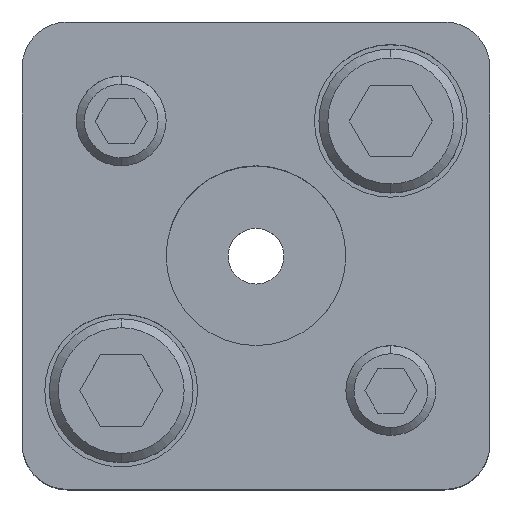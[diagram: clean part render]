
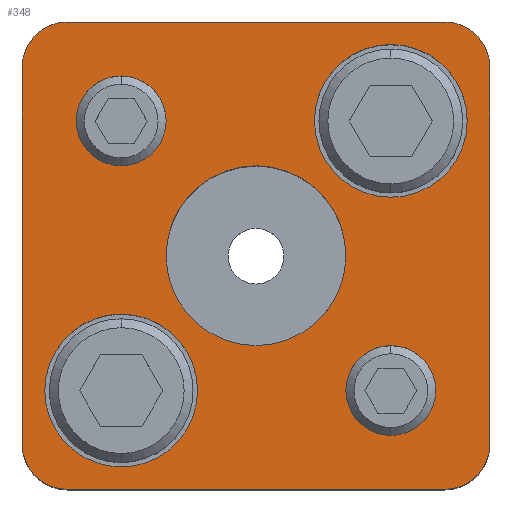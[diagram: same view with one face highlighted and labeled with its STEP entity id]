
A CAD part, top view. The second image highlights one B-rep face of the part: STEP entity #348.
In plain terms, the highlighted planar face has unit normal (0, 0, 1).
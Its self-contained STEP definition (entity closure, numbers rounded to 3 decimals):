
#173=PLANE('',#2995);
#248=FACE_BOUND('',#745,.T.);
#249=FACE_BOUND('',#746,.T.);
#250=FACE_BOUND('',#747,.T.);
#251=FACE_BOUND('',#748,.T.);
#252=FACE_BOUND('',#749,.T.);
#253=FACE_BOUND('',#750,.T.);
#348=ADVANCED_FACE('',(#248,#249,#250,#251,#252,#253),#173,.T.);
#745=EDGE_LOOP('',(#1597,#1598,#1599,#1600,#1601,#1602,#1603,#1604));
#746=EDGE_LOOP('',(#1605,#1606));
#747=EDGE_LOOP('',(#1607,#1608));
#748=EDGE_LOOP('',(#1609,#1610));
#749=EDGE_LOOP('',(#1611,#1612));
#750=EDGE_LOOP('',(#1613,#1614));
#934=LINE('',#4430,#1142);
#935=LINE('',#4434,#1143);
#936=LINE('',#4438,#1144);
#937=LINE('',#4442,#1145);
#1142=VECTOR('',#3559,1.);
#1143=VECTOR('',#3562,1.);
#1144=VECTOR('',#3565,1.);
#1145=VECTOR('',#3568,1.);
#1597=ORIENTED_EDGE('',*,*,#2454,.T.);
#1598=ORIENTED_EDGE('',*,*,#2455,.T.);
#1599=ORIENTED_EDGE('',*,*,#2456,.T.);
#1600=ORIENTED_EDGE('',*,*,#2457,.T.);
#1601=ORIENTED_EDGE('',*,*,#2458,.T.);
#1602=ORIENTED_EDGE('',*,*,#2459,.T.);
#1603=ORIENTED_EDGE('',*,*,#2460,.T.);
#1604=ORIENTED_EDGE('',*,*,#2461,.T.);
#1605=ORIENTED_EDGE('',*,*,#2462,.F.);
#1606=ORIENTED_EDGE('',*,*,#2463,.F.);
#1607=ORIENTED_EDGE('',*,*,#2464,.F.);
#1608=ORIENTED_EDGE('',*,*,#2465,.F.);
#1609=ORIENTED_EDGE('',*,*,#2440,.F.);
#1610=ORIENTED_EDGE('',*,*,#2436,.F.);
#1611=ORIENTED_EDGE('',*,*,#2434,.F.);
#1612=ORIENTED_EDGE('',*,*,#2430,.F.);
#1613=ORIENTED_EDGE('',*,*,#2466,.T.);
#1614=ORIENTED_EDGE('',*,*,#2467,.T.);
#2135=VERTEX_POINT('',#4378);
#2136=VERTEX_POINT('',#4379);
#2139=VERTEX_POINT('',#4391);
#2140=VERTEX_POINT('',#4392);
#2151=VERTEX_POINT('',#4428);
#2152=VERTEX_POINT('',#4429);
#2153=VERTEX_POINT('',#4431);
#2154=VERTEX_POINT('',#4433);
#2155=VERTEX_POINT('',#4435);
#2156=VERTEX_POINT('',#4437);
#2157=VERTEX_POINT('',#4439);
#2158=VERTEX_POINT('',#4441);
#2159=VERTEX_POINT('',#4444);
#2160=VERTEX_POINT('',#4445);
#2161=VERTEX_POINT('',#4448);
#2162=VERTEX_POINT('',#4449);
#2163=VERTEX_POINT('',#4452);
#2164=VERTEX_POINT('',#4453);
#2430=EDGE_CURVE('',#2135,#2136,#2735,.T.);
#2434=EDGE_CURVE('',#2136,#2135,#2737,.T.);
#2436=EDGE_CURVE('',#2139,#2140,#2739,.T.);
#2440=EDGE_CURVE('',#2140,#2139,#2741,.T.);
#2454=EDGE_CURVE('',#2151,#2152,#2751,.T.);
#2455=EDGE_CURVE('',#2152,#2153,#934,.T.);
#2456=EDGE_CURVE('',#2153,#2154,#2752,.T.);
#2457=EDGE_CURVE('',#2154,#2155,#935,.T.);
#2458=EDGE_CURVE('',#2155,#2156,#2753,.T.);
#2459=EDGE_CURVE('',#2156,#2157,#936,.T.);
#2460=EDGE_CURVE('',#2157,#2158,#2754,.T.);
#2461=EDGE_CURVE('',#2158,#2151,#937,.T.);
#2462=EDGE_CURVE('',#2159,#2160,#2755,.T.);
#2463=EDGE_CURVE('',#2160,#2159,#2756,.T.);
#2464=EDGE_CURVE('',#2161,#2162,#2757,.T.);
#2465=EDGE_CURVE('',#2162,#2161,#2758,.T.);
#2466=EDGE_CURVE('',#2163,#2164,#2759,.T.);
#2467=EDGE_CURVE('',#2164,#2163,#2760,.T.);
#2735=CIRCLE('',#2959,5.);
#2737=CIRCLE('',#2962,5.);
#2739=CIRCLE('',#2966,5.);
#2741=CIRCLE('',#2969,5.);
#2751=CIRCLE('',#2985,5.);
#2752=CIRCLE('',#2986,5.);
#2753=CIRCLE('',#2987,5.);
#2754=CIRCLE('',#2988,5.);
#2755=CIRCLE('',#2989,8.5);
#2756=CIRCLE('',#2990,8.5);
#2757=CIRCLE('',#2991,8.5);
#2758=CIRCLE('',#2992,8.5);
#2759=CIRCLE('',#2993,10.);
#2760=CIRCLE('',#2994,10.);
#2959=AXIS2_PLACEMENT_3D('',#4377,#3497,#3498);
#2962=AXIS2_PLACEMENT_3D('',#4386,#3505,#3506);
#2966=AXIS2_PLACEMENT_3D('',#4390,#3513,#3514);
#2969=AXIS2_PLACEMENT_3D('',#4399,#3521,#3522);
#2985=AXIS2_PLACEMENT_3D('',#4427,#3557,#3558);
#2986=AXIS2_PLACEMENT_3D('',#4432,#3560,#3561);
#2987=AXIS2_PLACEMENT_3D('',#4436,#3563,#3564);
#2988=AXIS2_PLACEMENT_3D('',#4440,#3566,#3567);
#2989=AXIS2_PLACEMENT_3D('',#4443,#3569,#3570);
#2990=AXIS2_PLACEMENT_3D('',#4446,#3571,#3572);
#2991=AXIS2_PLACEMENT_3D('',#4447,#3573,#3574);
#2992=AXIS2_PLACEMENT_3D('',#4450,#3575,#3576);
#2993=AXIS2_PLACEMENT_3D('',#4451,#3577,#3578);
#2994=AXIS2_PLACEMENT_3D('',#4454,#3579,#3580);
#2995=AXIS2_PLACEMENT_3D('',#4455,#3581,#3582);
#3497=DIRECTION('',(0.,0.,1.));
#3498=DIRECTION('',(-1.,0.,0.));
#3505=DIRECTION('',(0.,0.,1.));
#3506=DIRECTION('',(1.,0.,0.));
#3513=DIRECTION('',(0.,0.,1.));
#3514=DIRECTION('',(-1.,0.,0.));
#3521=DIRECTION('',(0.,0.,1.));
#3522=DIRECTION('',(1.,0.,0.));
#3557=DIRECTION('',(0.,0.,1.));
#3558=DIRECTION('',(-0.707,0.707,0.));
#3559=DIRECTION('',(0.,1.,0.));
#3560=DIRECTION('',(0.,0.,1.));
#3561=DIRECTION('',(-0.707,-0.707,0.));
#3562=DIRECTION('',(-1.,0.,0.));
#3563=DIRECTION('',(0.,0.,1.));
#3564=DIRECTION('',(0.707,-0.707,0.));
#3565=DIRECTION('',(0.,-1.,0.));
#3566=DIRECTION('',(0.,0.,1.));
#3567=DIRECTION('',(0.707,0.707,0.));
#3568=DIRECTION('',(1.,0.,0.));
#3569=DIRECTION('',(0.,0.,1.));
#3570=DIRECTION('',(1.,0.,0.));
#3571=DIRECTION('',(0.,0.,1.));
#3572=DIRECTION('',(-1.,0.,0.));
#3573=DIRECTION('',(0.,0.,1.));
#3574=DIRECTION('',(1.,0.,0.));
#3575=DIRECTION('',(0.,0.,1.));
#3576=DIRECTION('',(-1.,0.,0.));
#3577=DIRECTION('',(0.,0.,-1.));
#3578=DIRECTION('',(-1.,0.,0.));
#3579=DIRECTION('',(0.,0.,-1.));
#3580=DIRECTION('',(1.,0.,0.));
#3581=DIRECTION('',(0.,0.,1.));
#3582=DIRECTION('',(-1.,0.,0.));
#4377=CARTESIAN_POINT('',(15.,-15.,40.));
#4378=CARTESIAN_POINT('',(15.,-20.,40.));
#4379=CARTESIAN_POINT('',(15.,-10.,40.));
#4386=CARTESIAN_POINT('',(15.,-15.,40.));
#4390=CARTESIAN_POINT('',(-15.,15.,40.));
#4391=CARTESIAN_POINT('',(-15.,10.,40.));
#4392=CARTESIAN_POINT('',(-15.,20.,40.));
#4399=CARTESIAN_POINT('',(-15.,15.,40.));
#4427=CARTESIAN_POINT('',(21.,-21.,40.));
#4428=CARTESIAN_POINT('',(21.,-26.,40.));
#4429=CARTESIAN_POINT('',(26.,-21.,40.));
#4430=CARTESIAN_POINT('',(26.,21.,40.));
#4431=CARTESIAN_POINT('',(26.,21.,40.));
#4432=CARTESIAN_POINT('',(21.,21.,40.));
#4433=CARTESIAN_POINT('',(21.,26.,40.));
#4434=CARTESIAN_POINT('',(-21.,26.,40.));
#4435=CARTESIAN_POINT('',(-21.,26.,40.));
#4436=CARTESIAN_POINT('',(-21.,21.,40.));
#4437=CARTESIAN_POINT('',(-26.,21.,40.));
#4438=CARTESIAN_POINT('',(-26.,21.,40.));
#4439=CARTESIAN_POINT('',(-26.,-21.,40.));
#4440=CARTESIAN_POINT('',(-21.,-21.,40.));
#4441=CARTESIAN_POINT('',(-21.,-26.,40.));
#4442=CARTESIAN_POINT('',(-21.,-26.,40.));
#4443=CARTESIAN_POINT('',(15.,15.,40.));
#4444=CARTESIAN_POINT('',(15.,23.5,40.));
#4445=CARTESIAN_POINT('',(15.,6.5,40.));
#4446=CARTESIAN_POINT('',(15.,15.,40.));
#4447=CARTESIAN_POINT('',(-15.,-15.,40.));
#4448=CARTESIAN_POINT('',(-15.,-6.5,40.));
#4449=CARTESIAN_POINT('',(-15.,-23.5,40.));
#4450=CARTESIAN_POINT('',(-15.,-15.,40.));
#4451=CARTESIAN_POINT('',(0.,0.,40.));
#4452=CARTESIAN_POINT('',(0.,10.,40.));
#4453=CARTESIAN_POINT('',(0.,-10.,40.));
#4454=CARTESIAN_POINT('',(0.,0.,40.));
#4455=CARTESIAN_POINT('',(21.,-26.,40.));
